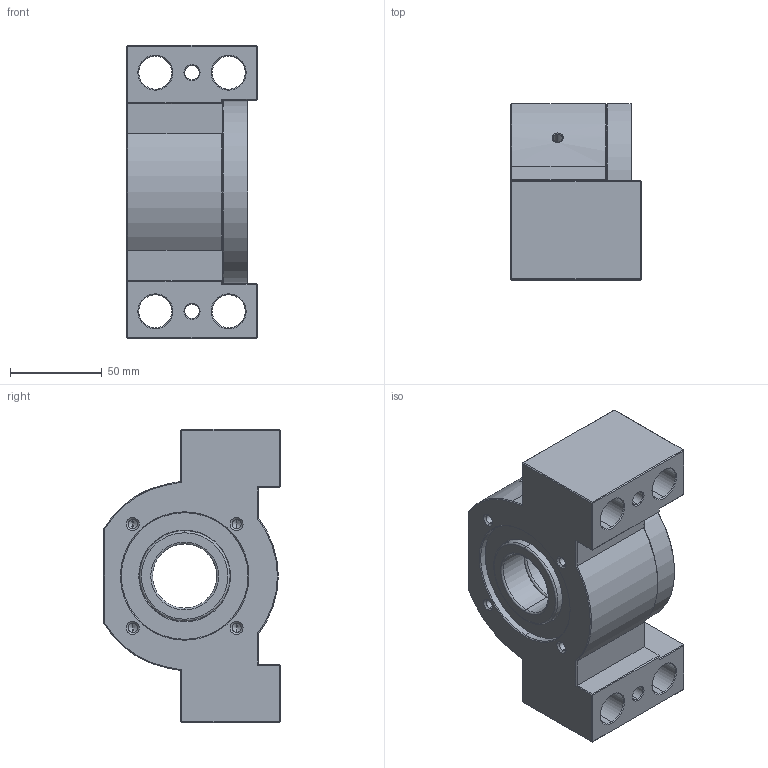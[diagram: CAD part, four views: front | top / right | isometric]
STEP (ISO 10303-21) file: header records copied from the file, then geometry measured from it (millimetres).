
FILE_DESCRIPTION (( 'STEP AP203' ), '1' );
FILE_NAME ('SBK35DF²Õ¦X.STEP', '2010-08-13T12:10:23', ( '' ), ( '' ), 'SwSTEP 2.0', 'SolidWorks 2008', '' );
FILE_SCHEMA (( 'CONFIG_CONTROL_DESIGN' ));
Length unit declared in the file: millimetre
Products named in the file (1): SBK35DF組合
Bounding box: 71 x 96 x 160 mm (x, y, z)
Volume: 580201.1 mm3; surface area: 162564.7 mm2
Topology: 50 solids, 50 shells, 495 faces, 1188 edges, 716 vertices
Faces by surface type: cylinder 145, cone 131, plane 105, sphere 80, torus 34
Entity records: 12904 total; most frequent: DIRECTION 2466, CARTESIAN_POINT 2233, ORIENTED_EDGE 1936, AXIS2_PLACEMENT_3D 1026, EDGE_CURVE 968, VERTEX_POINT 596, EDGE_LOOP 564, CIRCLE 530
